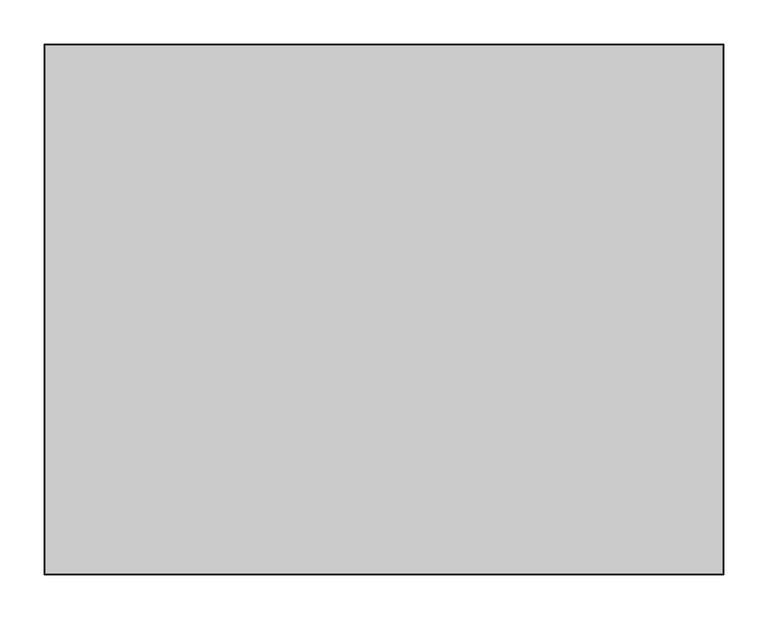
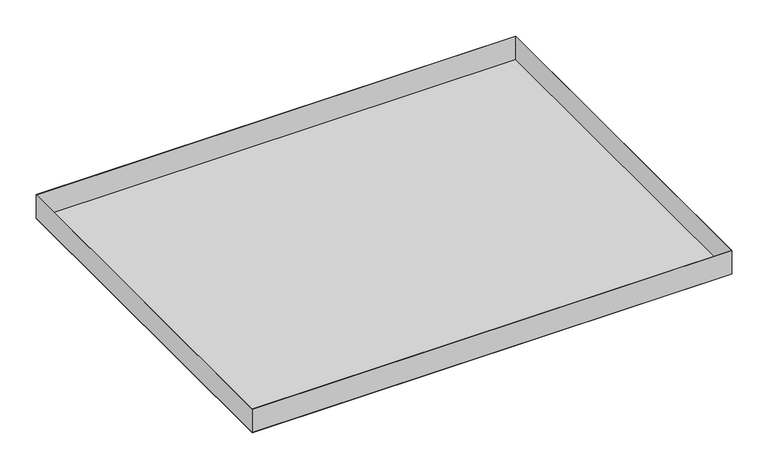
"""IFC4 building model written with IfcOpenShell, lengths in millimetres: proxy geometry, durlum_S-OM-63 : durlum_S-OM-63_panel_wall_length_cut."""

from ifc_helpers import new_model, si_unit, frame, origin, origin_with_axes, place, context, project, spatial, polyline, outline, extrude, source, transform, mapped, element, save


def generic_models_6ba6b66a(model_context):
    return source(origin(), model_context, "Body", "SweptSolid", [
        extrude(outline(polyline([(383.725, 299.5), (383.725, -299.5), (-383.725, -299.5), (-383.725, 299.5), (383.725, 299.5)]), holes=[polyline([(383.125, 298.9), (-383.125, 298.9), (-383.125, -298.9), (383.125, -298.9), (383.125, 298.9)])]), frame((0.0, 0.0, 0.6), z_axis=(0.0, 0.0, 1.0), x_axis=(1.0, 0.0, 0.0)), (0.0, 0.0, 1.0), 39.4),
        extrude(outline(polyline([(382.725, 298.5), (382.725, -298.5), (-382.725, -298.5), (-382.725, 298.5), (382.725, 298.5)])), frame((0.0, 0.0, 0.6), z_axis=(0.0, 0.0, 1.0), x_axis=(1.0, 0.0, 0.0)), (0.0, 0.0, 1.0), 0.6),
        extrude(outline(polyline([(383.725, 299.5), (383.725, -299.5), (-383.725, -299.5), (-383.725, 299.5), (383.725, 299.5)]), holes=[polyline([(382.725, 298.5), (-382.725, 298.5), (-382.725, -298.5), (382.725, -298.5), (382.725, 298.5)])]), origin_with_axes(), (0.0, 0.0, 1.0), 0.6),
        extrude(outline(polyline([(382.725, 298.5), (382.725, -298.5), (-382.725, -298.5), (-382.725, 298.5), (382.725, 298.5)])), origin_with_axes(), (0.0, 0.0, 1.0), 0.6),
    ])


if __name__ == "__main__":
    model = new_model("IFC4")
    model_context = context("Model", 3, world=origin())
    ifc_project = project(units=[si_unit("LENGTHUNIT", "METRE", prefix="MILLI")], contexts=[model_context])
    site = spatial("IfcSite", under=ifc_project)
    building = spatial("IfcBuilding", under=site)
    placement = place(None, origin())
    generic_models_shape = generic_models_6ba6b66a(model_context)
    element("IfcBuildingElementProxy", 1, Name="durlum_S-OM-63 : durlum_S-OM-63_panel_wall_length_cut", ObjectType="durlum_S-OM-63 : durlum_S-OM-63_panel_wall_length_cut", at=placement, inside=building, context=model_context, shape_type="MappedRepresentation", body=[
        mapped(generic_models_shape, transform((0.0, 0.0, 0.0), x_axis=(1.0, 0.0, 0.0), y_axis=(0.0, 1.0, 0.0), z_axis=(0.0, 0.0, 1.0))),
    ])
    save(model, "model.ifc")
